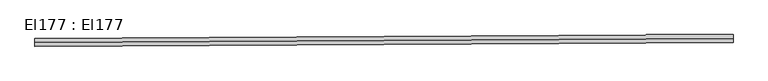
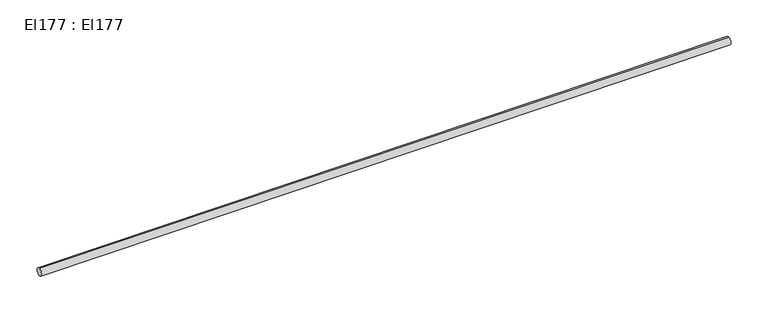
"""IFC4 building model written with IfcOpenShell, lengths in millimetres: cable carrier segment geometry, El177 : El177."""

import ifcopenshell
import ifcopenshell.guid

model = None  # the IFC model being written
_history = None  # IfcOwnerHistory: only IFC2X3 demands one
_inside = {}  # id of a spatial element -> (the spatial element, [elements in it])
_under = {}  # id of a project, library or spatial element -> (it, [spatial elements below it])
_declared = {}  # id of a project -> (the project, [libraries it declares])
_typed = {}  # id of a type object -> (the type object, [elements of that type])
_made_of = {}  # id of a material, layer set ... -> (it, [elements and type objects made of it])


def new_model(schema):
    """Start an empty IFC model of exactly this schema.

    Asked for "IFC4X3", IfcOpenShell would pick the latest addendum, in which some entities
    have other attributes; the version numbers below select the first issue.
    IFC2X3 requires an IfcOwnerHistory on every rooted entity: one is made here for all.
    """
    global model, _history
    if schema == "IFC4X3":
        model = ifcopenshell.file(schema_version=(4, 3, 0, 0))
    else:
        model = ifcopenshell.file(schema=schema)
    _inside.clear()
    _under.clear()
    _declared.clear()
    _typed.clear()
    _made_of.clear()
    _history = None
    if model.schema == "IFC2X3":
        org = make("IfcOrganization", Name="unknown")
        user = make(
            "IfcPersonAndOrganization",
            ThePerson=make("IfcPerson", FamilyName="unknown"),
            TheOrganization=org,
        )
        app = make(
            "IfcApplication",
            ApplicationDeveloper=org,
            Version="unknown",
            ApplicationFullName="unknown",
            ApplicationIdentifier="unknown",
        )
        _history = make(
            "IfcOwnerHistory",
            OwningUser=user,
            OwningApplication=app,
            ChangeAction="ADDED",
            CreationDate=0,
        )
    return model


def make(cls, **values):
    """One entity of the class cls with the attributes given. An attribute that is None is left unset."""
    return model.create_entity(
        cls, **{name: value for name, value in values.items() if value is not None}
    )


def rooted(cls, **values):
    """An entity with a GlobalId (a new one), such as an element, a storey or a relation."""
    return make(cls, GlobalId=ifcopenshell.guid.new(), OwnerHistory=_history, **values)


def si_unit(unit_type, name, prefix=None):
    """IfcSIUnit, for example si_unit("LENGTHUNIT", "METRE", prefix="MILLI")."""
    return make("IfcSIUnit", UnitType=unit_type, Prefix=prefix, Name=name)


def assignment(units):
    """IfcUnitAssignment: the units of a project."""
    return None if units is None else make("IfcUnitAssignment", Units=units)


def point(xyz):
    """IfcCartesianPoint."""
    return None if xyz is None else make("IfcCartesianPoint", Coordinates=xyz)


def direction(xyz):
    """IfcDirection."""
    return None if xyz is None else make("IfcDirection", DirectionRatios=xyz)


def frame(location, z_axis=None, x_axis=None):
    """IfcAxis2Placement3D, a coordinate frame: its origin and axes. An axis left out is left unset."""
    return make(
        "IfcAxis2Placement3D",
        Location=point(location),
        Axis=direction(z_axis),
        RefDirection=direction(x_axis),
    )


def frame_2d(location, x_axis=None):
    """IfcAxis2Placement2D, a coordinate frame in the plane: its origin and x axis."""
    return make(
        "IfcAxis2Placement2D", Location=point(location), RefDirection=direction(x_axis)
    )


def origin():
    """The frame at (0, 0, 0) with its axes left unset."""
    return frame((0.0, 0.0, 0.0))


def place(relative_to, where):
    """IfcLocalPlacement: puts the frame where relative to a parent placement (None: the world)."""
    return make(
        "IfcLocalPlacement", PlacementRelTo=relative_to, RelativePlacement=where
    )


def context(
    kind, dimensions, precision=None, world=None, true_north=None, identifier=None
):
    """IfcGeometricRepresentationContext, for example the 3D "Model" context."""
    return make(
        "IfcGeometricRepresentationContext",
        ContextIdentifier=identifier,
        ContextType=kind,
        CoordinateSpaceDimension=dimensions,
        Precision=precision,
        WorldCoordinateSystem=world,
        TrueNorth=true_north,
    )


def project(units=None, contexts=None):
    """IfcProject with its units and contexts."""
    return rooted(
        "IfcProject",
        Name="project",
        RepresentationContexts=contexts,
        UnitsInContext=assignment(units),
    )


def spatial(cls, under=None, at=None, **own):
    """A site, building, storey or space (cls), placed at a placement, below another one or the project."""
    s = rooted(cls, ObjectPlacement=at, **own)
    if under is not None:
        _under.setdefault(under.id(), (under, []))[1].append(s)
    return s


def circle_curve(where, radius):
    """IfcCircle in the frame where."""
    return make("IfcCircle", Position=where, Radius=radius)


def trimmed(basis, trim1, trim2, sense, master):
    """IfcTrimmedCurve: the piece of a basis curve between two trims."""
    return make(
        "IfcTrimmedCurve",
        BasisCurve=basis,
        Trim1=trim1,
        Trim2=trim2,
        SenseAgreement=sense,
        MasterRepresentation=master,
    )


def segment(curve, same_sense, transition):
    """IfcCompositeCurveSegment."""
    return make(
        "IfcCompositeCurveSegment",
        Transition=transition,
        SameSense=same_sense,
        ParentCurve=curve,
    )


def composite_curve(segments, self_intersect=None):
    """IfcCompositeCurve: segments joined end to end."""
    return make("IfcCompositeCurve", Segments=segments, SelfIntersect=self_intersect)


def outline(outer, holes=None, kind="AREA"):
    """IfcArbitraryClosedProfileDef: a profile drawn as a closed curve; with holes, ...WithVoids."""
    if holes is None:
        return make("IfcArbitraryClosedProfileDef", ProfileType=kind, OuterCurve=outer)
    return make(
        "IfcArbitraryProfileDefWithVoids",
        ProfileType=kind,
        OuterCurve=outer,
        InnerCurves=holes,
    )


def extrude(swept, where, along, depth):
    """IfcExtrudedAreaSolid: the profile swept, set in the frame where, extruded along a direction by depth."""
    return make(
        "IfcExtrudedAreaSolid",
        SweptArea=swept,
        Position=where,
        ExtrudedDirection=direction(along),
        Depth=depth,
    )


def shape(context_of_items, identifier, shape_type, items):
    """IfcShapeRepresentation: the items that make up one representation, for example the "Body"."""
    return make(
        "IfcShapeRepresentation",
        ContextOfItems=context_of_items,
        RepresentationIdentifier=identifier,
        RepresentationType=shape_type,
        Items=items,
    )


def source(mapping_origin, context_of_items, identifier, shape_type, items):
    """IfcRepresentationMap: a shape defined once, which mapped items show again and again."""
    return make(
        "IfcRepresentationMap",
        MappingOrigin=mapping_origin,
        MappedRepresentation=shape(context_of_items, identifier, shape_type, items),
    )


def transform(
    local_origin,
    x_axis=None,
    y_axis=None,
    z_axis=None,
    scale=None,
    scale2=None,
    scale3=None,
    uniform=True,
):
    """IfcCartesianTransformationOperator3D, or its non-uniform kind. x_axis, y_axis, z_axis: its Axis1, 2, 3."""
    if uniform:
        return make(
            "IfcCartesianTransformationOperator3D",
            Axis1=direction(x_axis),
            Axis2=direction(y_axis),
            LocalOrigin=point(local_origin),
            Scale=scale,
            Axis3=direction(z_axis),
        )
    return make(
        "IfcCartesianTransformationOperator3DnonUniform",
        Axis1=direction(x_axis),
        Axis2=direction(y_axis),
        LocalOrigin=point(local_origin),
        Scale=scale,
        Axis3=direction(z_axis),
        Scale2=scale2,
        Scale3=scale3,
    )


def mapped(mapping_source, mapping_target):
    """IfcMappedItem: shows the shape of a source again, moved by a transform."""
    return make(
        "IfcMappedItem", MappingSource=mapping_source, MappingTarget=mapping_target
    )


def made_of(thing, what):
    """Note that an element or type object is made of a material, layer set ...; save() writes the relation."""
    if what is not None:
        _made_of.setdefault(what.id(), (what, []))[1].append(thing)
    return thing


def element(
    cls,
    number,
    at=None,
    inside=None,
    cuts=None,
    type_object=None,
    material=None,
    context=None,
    identifier="Body",
    shape_type=None,
    held_by="IfcProductDefinitionShape",
    body=None,
    shapes=None,
    **own,
):
    """One element of the class cls, such as IfcWall. Its Tag is "e" and its number.

    at: its placement. inside: the storey or other place that contains it. cuts: it is an
    opening in that element (IfcRelVoidsElement). A single representation is given by context,
    identifier, shape_type and body (its items); several are given by shapes. held_by: the class
    of the entity that holds the representations. save() writes the other relations.
    """
    e = rooted(cls, Tag="e%d" % number, ObjectPlacement=at, **own)
    if body is not None:
        shapes = [shape(context, identifier, shape_type, body)]
    if shapes is not None:
        e.Representation = make(held_by, Representations=shapes)
    if inside is not None:
        _inside.setdefault(inside.id(), (inside, []))[1].append(e)
    if cuts is not None:
        rooted(
            "IfcRelVoidsElement", RelatingBuildingElement=cuts, RelatedOpeningElement=e
        )
    if type_object is not None:
        _typed.setdefault(type_object.id(), (type_object, []))[1].append(e)
    return made_of(e, material)


def aggregate(whole, parts):
    """IfcRelAggregates: a whole, such as a stair, and the parts it consists of."""
    return rooted("IfcRelAggregates", RelatingObject=whole, RelatedObjects=parts)


def save(model, path):
    """Write the relations noted so far, then the file.

    IfcRelAggregates (storeys below a building ...), IfcRelContainedInSpatialStructure (elements
    in a storey), IfcRelDefinesByType, IfcRelAssociatesMaterial and IfcRelDeclares: one each for
    every whole, place, type object, material and project.
    """
    for whole, parts in _under.values():
        aggregate(whole, parts)
    for where, things in _inside.values():
        rooted(
            "IfcRelContainedInSpatialStructure",
            RelatedElements=things,
            RelatingStructure=where,
        )
    for kind, things in _typed.values():
        rooted("IfcRelDefinesByType", RelatedObjects=things, RelatingType=kind)
    for what, things in _made_of.values():
        rooted("IfcRelAssociatesMaterial", RelatedObjects=things, RelatingMaterial=what)
    for by, libraries in _declared.values():
        rooted("IfcRelDeclares", RelatingContext=by, RelatedDefinitions=libraries)
    model.write(path)


def el177_el177_09ea8584(model_context):
    return source(origin(), model_context, "Body", "SweptSolid", [
        extrude(outline(composite_curve([segment(trimmed(circle_curve(frame_2d((0.0, -9.5)), 9.5), [point((0.0, -19.0))], [point((0.0, 0.0))], False, "CARTESIAN"), True, "CONTINUOUS"), segment(trimmed(circle_curve(frame_2d((0.0, -9.5)), 9.5), [point((0.0, 0.0))], [point((0.0, -19.0))], False, "CARTESIAN"), True, "CONTINUOUS")], self_intersect=False)), frame((1905.283, 34272.19458, 309.5), z_axis=(0.9999839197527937, 0.00567099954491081, 0.0), x_axis=(-0.00567099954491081, 0.9999839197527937, 0.0)), (0.0, 0.0, 1.0), 1730.0),
    ])


if __name__ == "__main__":
    model = new_model("IFC4")
    model_context = context("Model", 3, world=origin())
    ifc_project = project(units=[si_unit("LENGTHUNIT", "METRE", prefix="MILLI")], contexts=[model_context])
    site = spatial("IfcSite", under=ifc_project)
    building = spatial("IfcBuilding", under=site)
    placement = place(None, origin())
    el177_el177_shape = el177_el177_09ea8584(model_context)
    element("IfcCableCarrierSegment", 1, ObjectType="El177 : El177", at=placement, inside=building, context=model_context, shape_type="MappedRepresentation", body=[
        mapped(el177_el177_shape, transform((0.0, 0.0, 0.0), x_axis=(1.0, 0.0, 0.0), y_axis=(0.0, 1.0, 0.0), z_axis=(0.0, 0.0, 1.0))),
    ])
    save(model, "model.ifc")
